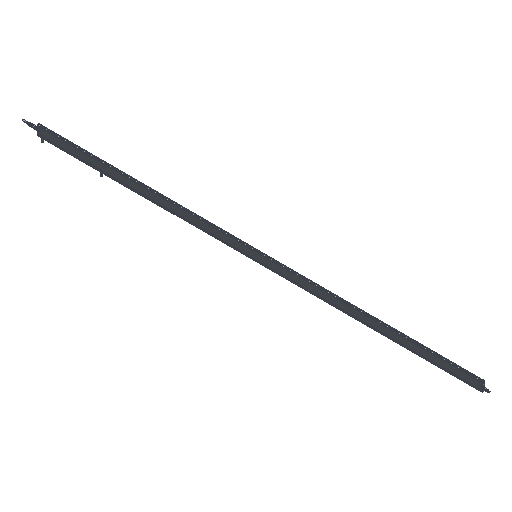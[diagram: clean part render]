
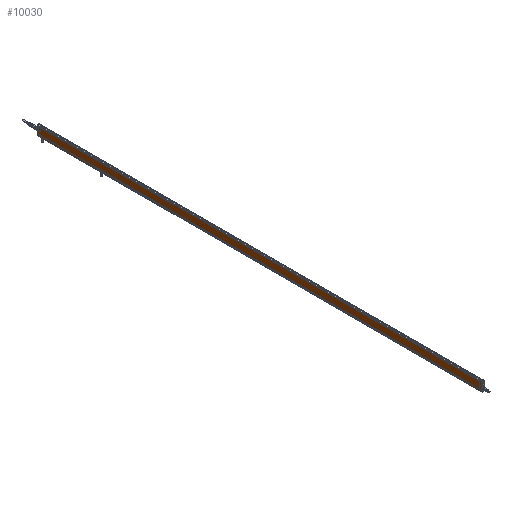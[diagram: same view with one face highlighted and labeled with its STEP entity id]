
A CAD part, isometric view. The second image highlights one B-rep face of the part: STEP entity #10030.
In plain terms, the highlighted planar face has unit normal (-1, 0, 0).
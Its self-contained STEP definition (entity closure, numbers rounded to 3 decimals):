
#1666 = CARTESIAN_POINT ( 'NONE',  ( -9., 1515., 28.5 ) ) ;
#2347 = EDGE_CURVE ( 'NONE', #7961, #24762, #25477, .T. ) ;
#5438 = CARTESIAN_POINT ( 'NONE',  ( -9., 1515., 0.5 ) ) ;
#6528 = AXIS2_PLACEMENT_3D ( 'NONE', #1666, #20075, #19963 ) ;
#6846 = ORIENTED_EDGE ( 'NONE', *, *, #8614, .F. ) ;
#7961 = VERTEX_POINT ( 'NONE', #19340 ) ;
#8317 = CARTESIAN_POINT ( 'NONE',  ( -9., 0., 0.5 ) ) ;
#8614 = EDGE_CURVE ( 'NONE', #20068, #7961, #10767, .T. ) ;
#9004 = VECTOR ( 'NONE', #23603, 1000. ) ;
#9031 = LINE ( 'NONE', #25795, #16466 ) ;
#9109 = VECTOR ( 'NONE', #25409, 1000. ) ;
#10030 = ADVANCED_FACE ( 'NONE', ( #31733 ), #27278, .T. ) ;
#10767 = LINE ( 'NONE', #15019, #9109 ) ;
#13624 = EDGE_CURVE ( 'NONE', #20068, #14981, #9031, .T. ) ;
#14981 = VERTEX_POINT ( 'NONE', #5438 ) ;
#15019 = CARTESIAN_POINT ( 'NONE',  ( -9., 1515., 28.5 ) ) ;
#16466 = VECTOR ( 'NONE', #31000, 1000. ) ;
#17883 = EDGE_LOOP ( 'NONE', ( #28328, #6846, #23490, #32367 ) ) ;
#18817 = VECTOR ( 'NONE', #22515, 1000. ) ;
#19340 = CARTESIAN_POINT ( 'NONE',  ( -9., 0., 28.5 ) ) ;
#19963 = DIRECTION ( 'NONE',  ( 0., -1., 0. ) ) ;
#20068 = VERTEX_POINT ( 'NONE', #23151 ) ;
#20075 = DIRECTION ( 'NONE',  ( -1., 0., 0. ) ) ;
#22515 = DIRECTION ( 'NONE',  ( 0., 0., -1. ) ) ;
#22745 = CARTESIAN_POINT ( 'NONE',  ( -9., 0., 28.5 ) ) ;
#23086 = LINE ( 'NONE', #28693, #9004 ) ;
#23151 = CARTESIAN_POINT ( 'NONE',  ( -9., 1515., 28.5 ) ) ;
#23490 = ORIENTED_EDGE ( 'NONE', *, *, #13624, .T. ) ;
#23603 = DIRECTION ( 'NONE',  ( 0., -1., 0. ) ) ;
#24762 = VERTEX_POINT ( 'NONE', #8317 ) ;
#25409 = DIRECTION ( 'NONE',  ( 0., -1., 0. ) ) ;
#25477 = LINE ( 'NONE', #22745, #18817 ) ;
#25795 = CARTESIAN_POINT ( 'NONE',  ( -9., 1515., 28.5 ) ) ;
#27278 = PLANE ( 'NONE',  #6528 ) ;
#28328 = ORIENTED_EDGE ( 'NONE', *, *, #2347, .F. ) ;
#28693 = CARTESIAN_POINT ( 'NONE',  ( -9., 1515., 0.5 ) ) ;
#29006 = EDGE_CURVE ( 'NONE', #14981, #24762, #23086, .T. ) ;
#31000 = DIRECTION ( 'NONE',  ( 0., 0., -1. ) ) ;
#31733 = FACE_OUTER_BOUND ( 'NONE', #17883, .T. ) ;
#32367 = ORIENTED_EDGE ( 'NONE', *, *, #29006, .T. ) ;
